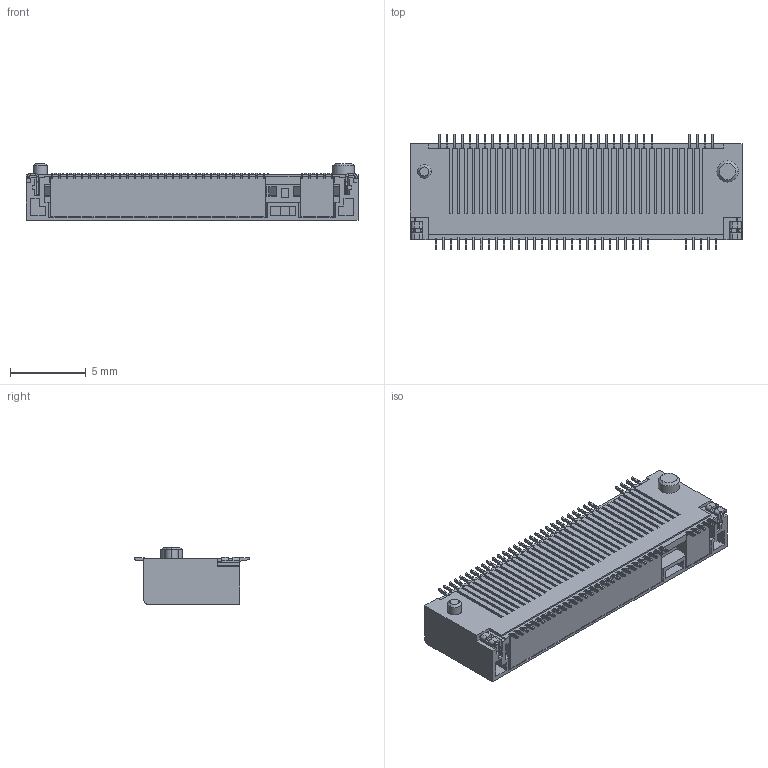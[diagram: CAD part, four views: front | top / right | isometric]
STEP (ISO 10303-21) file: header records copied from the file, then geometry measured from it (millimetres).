
FILE_DESCRIPTION((''),'2;1');
FILE_NAME('ASM0001_SW0001','2019-12-31T',('liushifeng'),(''),'PRO/ENGINEER BY PARAMETRIC TECHNOLOGY CORPORATION, 2009360','PRO/ENGINEER BY PARAMETRIC TECHNOLOGY CORPORATION, 2009360','');
FILE_SCHEMA(('CONFIG_CONTROL_DESIGN'));
Products named in the file (1): ASM0001_SW0001
Bounding box: 21.9 x 7.6 x 3.75 mm (x, y, z)
Volume: 307.5 mm3; surface area: 757.3 mm2
Topology: 1 solids, 1 shells, 2208 faces, 6544 edges, 4387 vertices
Faces by surface type: plane 1435, cylinder 765, sphere 4, cone 4
Entity records: 89722 total; most frequent: CARTESIAN_POINT 13343, ORIENTED_EDGE 13088, DIRECTION 12345, EDGE_CURVE 6544, VECTOR 4997, LINE 4997, VERTEX_POINT 4387, AXIS2_PLACEMENT_3D 3674
